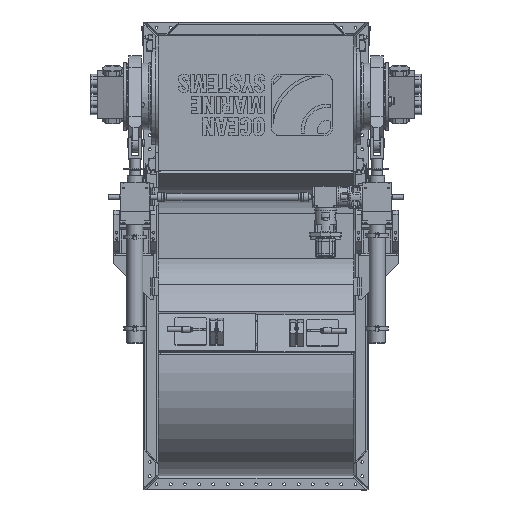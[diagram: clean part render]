
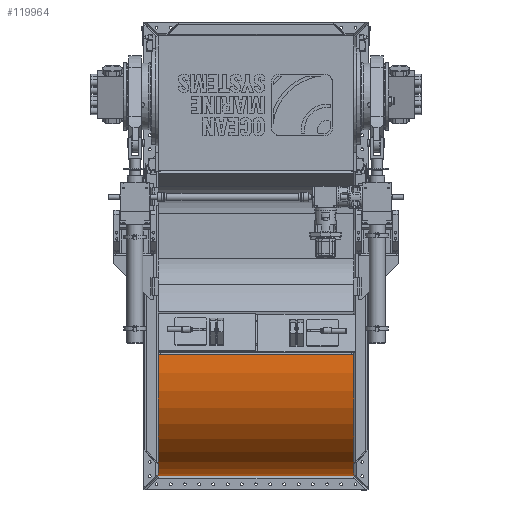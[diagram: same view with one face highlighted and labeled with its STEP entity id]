
A CAD part, top view. The second image highlights one B-rep face of the part: STEP entity #119964.
In plain terms, the highlighted cylindrical face has radius 600 mm (diameter 1200 mm), a partial arc.
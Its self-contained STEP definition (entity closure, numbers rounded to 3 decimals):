
#6285=CYLINDRICAL_SURFACE('',#128511,600.);
#10201=FACE_OUTER_BOUND('',#17147,.T.);
#17147=EDGE_LOOP('',(#88249,#88250,#88251,#88252));
#25053=LINE('',#220783,#34573);
#25054=LINE('',#220787,#34574);
#34573=VECTOR('',#147489,10.);
#34574=VECTOR('',#147492,10.);
#42659=CIRCLE('',#128512,600.);
#42660=CIRCLE('',#128513,600.);
#50036=VERTEX_POINT('',#220781);
#50037=VERTEX_POINT('',#220782);
#50038=VERTEX_POINT('',#220784);
#50039=VERTEX_POINT('',#220786);
#63775=EDGE_CURVE('',#50036,#50037,#25053,.T.);
#63776=EDGE_CURVE('',#50036,#50038,#42659,.T.);
#63777=EDGE_CURVE('',#50039,#50038,#25054,.T.);
#63778=EDGE_CURVE('',#50037,#50039,#42660,.T.);
#88249=ORIENTED_EDGE('',*,*,#63775,.F.);
#88250=ORIENTED_EDGE('',*,*,#63776,.T.);
#88251=ORIENTED_EDGE('',*,*,#63777,.F.);
#88252=ORIENTED_EDGE('',*,*,#63778,.F.);
#119964=ADVANCED_FACE('',(#10201),#6285,.T.);
#128511=AXIS2_PLACEMENT_3D('',#220780,#147487,#147488);
#128512=AXIS2_PLACEMENT_3D('',#220785,#147490,#147491);
#128513=AXIS2_PLACEMENT_3D('',#220788,#147493,#147494);
#147487=DIRECTION('center_axis',(1.,0.,0.));
#147488=DIRECTION('ref_axis',(0.,0.155,0.988));
#147489=DIRECTION('',(1.,0.,0.));
#147490=DIRECTION('center_axis',(1.,0.,0.));
#147491=DIRECTION('ref_axis',(0.,0.155,0.988));
#147492=DIRECTION('',(-1.,0.,0.));
#147493=DIRECTION('center_axis',(1.,0.,0.));
#147494=DIRECTION('ref_axis',(0.,0.155,0.988));
#220780=CARTESIAN_POINT('Origin',(-551.,35.,57.5));
#220781=CARTESIAN_POINT('',(-1102.,115.092,652.13));
#220782=CARTESIAN_POINT('',(0.,115.092,652.13));
#220783=CARTESIAN_POINT('',(-551.,115.092,652.13));
#220784=CARTESIAN_POINT('',(-1102.,-565.,57.5));
#220785=CARTESIAN_POINT('Origin',(-1102.,35.,57.5));
#220786=CARTESIAN_POINT('',(0.,-565.,57.5));
#220787=CARTESIAN_POINT('',(-551.,-565.,57.5));
#220788=CARTESIAN_POINT('Origin',(0.,35.,
57.5));
